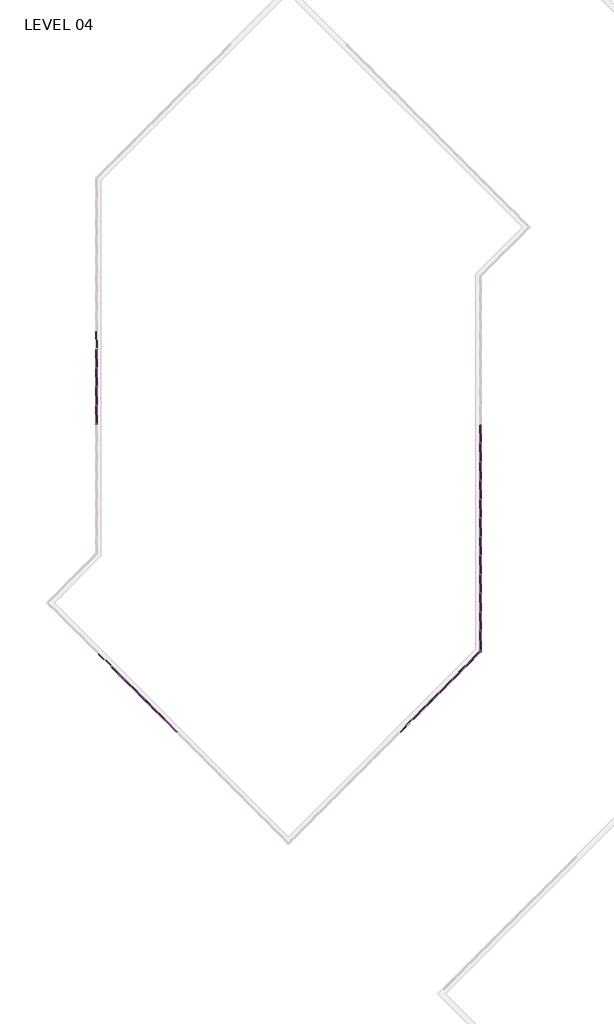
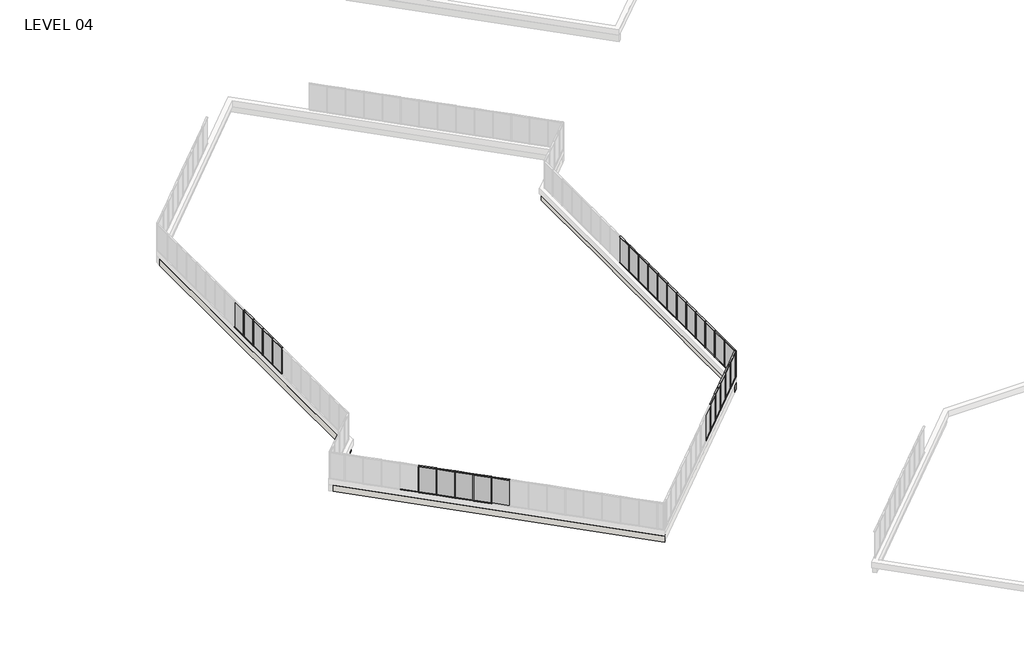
# One storey, part 4 of 17: 82 members, 28 plates, 3 walls.
"""IFC4 building model written with IfcOpenShell, lengths in millimetres."""

from ifc_helpers import new_model, si_unit, origin, place, context, project, spatial, faceted_brep, transform, mapped, element, save
from components import member_5247f267, member_e44af9ab, member_800970d4, member_c23f844a, member_1bd862b2, member_c975838b, member_ed9c17d6, plate_67294edd, plate_50b9cd61, plate_bbcbcabf, plate_db5d6751, plate_e0fd5134, plate_dca6a18a

model = new_model("IFC4")

# Units and contexts
model_context = context("Model", 3, world=origin())
ifc_project = project(units=[si_unit("LENGTHUNIT", "METRE", prefix="MILLI")], contexts=[model_context])

# Site, building, storey
site = spatial("IfcSite", under=ifc_project)
building = spatial("IfcBuilding", under=site)
storey = spatial("IfcBuildingStorey", under=building, Name="LEVEL 04", Elevation=12052.3)

# Members
placement = place(None, origin())
member_shape = member_5247f267(model_context)
element("IfcMember", 1, ObjectType="Rectangular Mullion : 2\" x 4.5\" rectangular", at=placement, inside=storey, context=model_context, shape_type="MappedRepresentation", body=[
    mapped(member_shape, transform((-32784.0347164, 58254.5675885, 14643.1), x_axis=(0.0, 0.0, 1.0), y_axis=(1.0, 0.0, 0.0), z_axis=(0.0, 1.0, 0.0))),
])
element("IfcMember", 2, ObjectType="Rectangular Mullion : 2\" x 4.5\" rectangular", at=placement, inside=storey, context=model_context, shape_type="MappedRepresentation", body=[
    mapped(member_shape, transform((-32784.0347164, 59778.5675885, 14643.1), x_axis=(0.0, 0.0, 1.0), y_axis=(1.0, 0.0, 0.0), z_axis=(0.0, 1.0, 0.0))),
])
element("IfcMember", 3, ObjectType="Rectangular Mullion : 2\" x 4.5\" rectangular", at=placement, inside=storey, context=model_context, shape_type="MappedRepresentation", body=[
    mapped(member_shape, transform((-32784.0347164, 62826.5675885, 14643.1), x_axis=(0.0, 0.0, 1.0), y_axis=(1.0, 0.0, 0.0), z_axis=(0.0, 1.0, 0.0))),
])
element("IfcMember", 4, ObjectType="Rectangular Mullion : 2\" x 4.5\" rectangular", at=placement, inside=storey, context=model_context, shape_type="MappedRepresentation", body=[
    mapped(member_shape, transform((-32784.0347164, 61302.5675885, 14643.1), x_axis=(0.0, 0.0, 1.0), y_axis=(1.0, 0.0, 0.0), z_axis=(0.0, 1.0, 0.0))),
])
element("IfcMember", 5, ObjectType="Rectangular Mullion : 2\" x 4.5\" rectangular", at=placement, inside=storey, context=model_context, shape_type="MappedRepresentation", body=[
    mapped(member_shape, transform((-1611.8847164, 49110.5675885, 14643.1), x_axis=(0.0, 0.0, 1.0), y_axis=(1.0, 0.0, 0.0), z_axis=(0.0, 1.0, 0.0))),
])
element("IfcMember", 6, ObjectType="Rectangular Mullion : 2\" x 4.5\" rectangular", at=placement, inside=storey, context=model_context, shape_type="MappedRepresentation", body=[
    mapped(member_shape, transform((-1611.8847164, 50634.5675885, 14643.1), x_axis=(0.0, 0.0, 1.0), y_axis=(1.0, 0.0, 0.0), z_axis=(0.0, 1.0, 0.0))),
])
element("IfcMember", 7, ObjectType="Rectangular Mullion : 2\" x 4.5\" rectangular", at=placement, inside=storey, context=model_context, shape_type="MappedRepresentation", body=[
    mapped(member_shape, transform((-1611.8847164, 52158.5675885, 14643.1), x_axis=(0.0, 0.0, 1.0), y_axis=(1.0, 0.0, 0.0), z_axis=(0.0, 1.0, 0.0))),
])
element("IfcMember", 8, ObjectType="Rectangular Mullion : 2\" x 4.5\" rectangular", at=placement, inside=storey, context=model_context, shape_type="MappedRepresentation", body=[
    mapped(member_shape, transform((-1611.8847164, 55206.5675885, 14643.1), x_axis=(0.0, 0.0, 1.0), y_axis=(1.0, 0.0, 0.0), z_axis=(0.0, 1.0, 0.0))),
])
element("IfcMember", 9, ObjectType="Rectangular Mullion : 2\" x 4.5\" rectangular", at=placement, inside=storey, context=model_context, shape_type="MappedRepresentation", body=[
    mapped(member_shape, transform((-1611.8847164, 56730.5675885, 14643.1), x_axis=(0.0, 0.0, 1.0), y_axis=(1.0, 0.0, 0.0), z_axis=(0.0, 1.0, 0.0))),
])
element("IfcMember", 10, ObjectType="Rectangular Mullion : 2\" x 4.5\" rectangular", at=placement, inside=storey, context=model_context, shape_type="MappedRepresentation", body=[
    mapped(member_shape, transform((-1611.8847164, 53682.5675885, 14643.1), x_axis=(0.0, 0.0, 1.0), y_axis=(1.0, 0.0, 0.0), z_axis=(0.0, 1.0, 0.0))),
])
element("IfcMember", 11, ObjectType="Rectangular Mullion : 2\" x 4.5\" rectangular", at=placement, inside=storey, context=model_context, shape_type="MappedRepresentation", body=[
    mapped(member_shape, transform((-1611.8847164, 47586.5675885, 14643.1), x_axis=(0.0, 0.0, 1.0), y_axis=(1.0, 0.0, 0.0), z_axis=(0.0, 1.0, 0.0))),
])
element("IfcMember", 12, ObjectType="Rectangular Mullion : 2\" x 4.5\" rectangular", at=placement, inside=storey, context=model_context, shape_type="MappedRepresentation", body=[
    mapped(member_shape, transform((-1611.8847164, 46062.5675885, 14643.1), x_axis=(0.0, 0.0, 1.0), y_axis=(1.0, 0.0, 0.0), z_axis=(0.0, 1.0, 0.0))),
])
element("IfcMember", 13, ObjectType="Rectangular Mullion : 2\" x 4.5\" rectangular", at=placement, inside=storey, context=model_context, shape_type="MappedRepresentation", body=[
    mapped(member_shape, transform((-1611.8847164, 44538.5675885, 14643.1), x_axis=(0.0, 0.0, 1.0), y_axis=(1.0, 0.0, 0.0), z_axis=(0.0, 1.0, 0.0))),
])
element("IfcMember", 14, ObjectType="Rectangular Mullion : 2\" x 4.5\" rectangular", at=placement, inside=storey, context=model_context, shape_type="MappedRepresentation", body=[
    mapped(member_shape, transform((-1611.8847164, 43014.5675885, 14643.1), x_axis=(0.0, 0.0, 1.0), y_axis=(1.0, 0.0, 0.0), z_axis=(0.0, 1.0, 0.0))),
])
element("IfcMember", 15, ObjectType="Rectangular Mullion : 2\" x 4.5\" rectangular", at=placement, inside=storey, context=model_context, shape_type="MappedRepresentation", body=[
    mapped(member_shape, transform((-1611.8847164, 41490.5675885, 14643.1), x_axis=(0.0, 0.0, 1.0), y_axis=(1.0, 0.0, 0.0), z_axis=(0.0, 1.0, 0.0))),
])
element("IfcMember", 16, ObjectType="Rectangular Mullion : 2\" x 4.5\" rectangular", at=placement, inside=storey, context=model_context, shape_type="MappedRepresentation", body=[
    mapped(member_shape, transform((-3866.0742688, 36048.0719005, 14643.1), x_axis=(0.0, 0.0, 1.0), y_axis=(-0.7071067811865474, 0.7071067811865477, 0.0), z_axis=(-0.7071067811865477, -0.7071067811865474, 0.0))),
])
element("IfcMember", 17, ObjectType="Rectangular Mullion : 2\" x 4.5\" rectangular", at=placement, inside=storey, context=model_context, shape_type="MappedRepresentation", body=[
    mapped(member_shape, transform((-4943.7050033, 34970.441166, 14643.1), x_axis=(0.0, 0.0, 1.0), y_axis=(-0.707106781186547, 0.707106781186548, 0.0), z_axis=(-0.707106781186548, -0.707106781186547, 0.0))),
])
element("IfcMember", 18, ObjectType="Rectangular Mullion : 2\" x 4.5\" rectangular", at=placement, inside=storey, context=model_context, shape_type="MappedRepresentation", body=[
    mapped(member_shape, transform((-6021.3357378, 33892.8104315, 14643.1), x_axis=(0.0, 0.0, 1.0), y_axis=(-0.7071067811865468, 0.7071067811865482, 0.0), z_axis=(-0.7071067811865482, -0.7071067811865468, 0.0))),
])
element("IfcMember", 19, ObjectType="Rectangular Mullion : 2\" x 4.5\" rectangular", at=placement, inside=storey, context=model_context, shape_type="MappedRepresentation", body=[
    mapped(member_shape, transform((-7098.9590715, 32815.1870978, 14643.1), x_axis=(0.0, 0.0, 1.0), y_axis=(-0.7071067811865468, 0.7071067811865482, 0.0), z_axis=(-0.7071067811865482, -0.7071067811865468, 0.0))),
])
element("IfcMember", 20, ObjectType="Rectangular Mullion : 2\" x 4.5\" rectangular", at=placement, inside=storey, context=model_context, shape_type="MappedRepresentation", body=[
    mapped(member_shape, transform((-32784.0347164, 56781.3675885, 12052.3), x_axis=(0.0, 0.0, -1.0), y_axis=(1.0, 0.0, 0.0), z_axis=(0.0, -1.0, 0.0))),
])
element("IfcMember", 21, ObjectType="Rectangular Mullion : 2\" x 4.5\" rectangular", at=placement, inside=storey, context=model_context, shape_type="MappedRepresentation", body=[
    mapped(member_shape, transform((-32784.0347164, 58305.3675885, 12052.3), x_axis=(0.0, 0.0, -1.0), y_axis=(1.0, 0.0, 0.0), z_axis=(0.0, -1.0, 0.0))),
])
element("IfcMember", 22, ObjectType="Rectangular Mullion : 2\" x 4.5\" rectangular", at=placement, inside=storey, context=model_context, shape_type="MappedRepresentation", body=[
    mapped(member_shape, transform((-32784.0347164, 59829.3675885, 12052.3), x_axis=(0.0, 0.0, -1.0), y_axis=(1.0, 0.0, 0.0), z_axis=(0.0, -1.0, 0.0))),
])
element("IfcMember", 23, ObjectType="Rectangular Mullion : 2\" x 4.5\" rectangular", at=placement, inside=storey, context=model_context, shape_type="MappedRepresentation", body=[
    mapped(member_shape, transform((-32784.0347164, 62877.3675885, 12052.3), x_axis=(0.0, 0.0, -1.0), y_axis=(1.0, 0.0, 0.0), z_axis=(0.0, -1.0, 0.0))),
])
element("IfcMember", 24, ObjectType="Rectangular Mullion : 2\" x 4.5\" rectangular", at=placement, inside=storey, context=model_context, shape_type="MappedRepresentation", body=[
    mapped(member_shape, transform((-32784.0347164, 61353.3675885, 12052.3), x_axis=(0.0, 0.0, -1.0), y_axis=(1.0, 0.0, 0.0), z_axis=(0.0, -1.0, 0.0))),
])
element("IfcMember", 25, ObjectType="Rectangular Mullion : 2\" x 4.5\" rectangular", at=placement, inside=storey, context=model_context, shape_type="MappedRepresentation", body=[
    mapped(member_shape, transform((-1611.8847164, 49161.3675885, 12052.3), x_axis=(0.0, 0.0, -1.0), y_axis=(1.0, 0.0, 0.0), z_axis=(0.0, -1.0, 0.0))),
])
element("IfcMember", 26, ObjectType="Rectangular Mullion : 2\" x 4.5\" rectangular", at=placement, inside=storey, context=model_context, shape_type="MappedRepresentation", body=[
    mapped(member_shape, transform((-1611.8847164, 50685.3675885, 12052.3), x_axis=(0.0, 0.0, -1.0), y_axis=(1.0, 0.0, 0.0), z_axis=(0.0, -1.0, 0.0))),
])
element("IfcMember", 27, ObjectType="Rectangular Mullion : 2\" x 4.5\" rectangular", at=placement, inside=storey, context=model_context, shape_type="MappedRepresentation", body=[
    mapped(member_shape, transform((-1611.8847164, 52209.3675885, 12052.3), x_axis=(0.0, 0.0, -1.0), y_axis=(1.0, 0.0, 0.0), z_axis=(0.0, -1.0, 0.0))),
])
element("IfcMember", 28, ObjectType="Rectangular Mullion : 2\" x 4.5\" rectangular", at=placement, inside=storey, context=model_context, shape_type="MappedRepresentation", body=[
    mapped(member_shape, transform((-1611.8847164, 55257.3675885, 12052.3), x_axis=(0.0, 0.0, -1.0), y_axis=(1.0, 0.0, 0.0), z_axis=(0.0, -1.0, 0.0))),
])
element("IfcMember", 29, ObjectType="Rectangular Mullion : 2\" x 4.5\" rectangular", at=placement, inside=storey, context=model_context, shape_type="MappedRepresentation", body=[
    mapped(member_shape, transform((-1611.8847164, 53733.3675885, 12052.3), x_axis=(0.0, 0.0, -1.0), y_axis=(1.0, 0.0, 0.0), z_axis=(0.0, -1.0, 0.0))),
])
element("IfcMember", 30, ObjectType="Rectangular Mullion : 2\" x 4.5\" rectangular", at=placement, inside=storey, context=model_context, shape_type="MappedRepresentation", body=[
    mapped(member_shape, transform((-1611.8847164, 47637.3675885, 12052.3), x_axis=(0.0, 0.0, -1.0), y_axis=(1.0, 0.0, 0.0), z_axis=(0.0, -1.0, 0.0))),
])
element("IfcMember", 31, ObjectType="Rectangular Mullion : 2\" x 4.5\" rectangular", at=placement, inside=storey, context=model_context, shape_type="MappedRepresentation", body=[
    mapped(member_shape, transform((-1611.8847164, 46113.3675885, 12052.3), x_axis=(0.0, 0.0, -1.0), y_axis=(1.0, 0.0, 0.0), z_axis=(0.0, -1.0, 0.0))),
])
element("IfcMember", 32, ObjectType="Rectangular Mullion : 2\" x 4.5\" rectangular", at=placement, inside=storey, context=model_context, shape_type="MappedRepresentation", body=[
    mapped(member_shape, transform((-1611.8847164, 44589.3675885, 12052.3), x_axis=(0.0, 0.0, -1.0), y_axis=(1.0, 0.0, 0.0), z_axis=(0.0, -1.0, 0.0))),
])
element("IfcMember", 33, ObjectType="Rectangular Mullion : 2\" x 4.5\" rectangular", at=placement, inside=storey, context=model_context, shape_type="MappedRepresentation", body=[
    mapped(member_shape, transform((-1611.8847164, 43065.3675885, 12052.3), x_axis=(0.0, 0.0, -1.0), y_axis=(1.0, 0.0, 0.0), z_axis=(0.0, -1.0, 0.0))),
])
element("IfcMember", 34, ObjectType="Rectangular Mullion : 2\" x 4.5\" rectangular", at=placement, inside=storey, context=model_context, shape_type="MappedRepresentation", body=[
    mapped(member_shape, transform((-1611.8847164, 41541.3675885, 12052.3), x_axis=(0.0, 0.0, -1.0), y_axis=(1.0, 0.0, 0.0), z_axis=(0.0, -1.0, 0.0))),
])
element("IfcMember", 35, ObjectType="Rectangular Mullion : 2\" x 4.5\" rectangular", at=placement, inside=storey, context=model_context, shape_type="MappedRepresentation", body=[
    mapped(member_shape, transform((-1611.8847164, 40017.3675885, 12052.3), x_axis=(0.0, 0.0, -1.0), y_axis=(1.0, 0.0, 0.0), z_axis=(0.0, -1.0, 0.0))),
])
element("IfcMember", 36, ObjectType="Rectangular Mullion : 2\" x 4.5\" rectangular", at=placement, inside=storey, context=model_context, shape_type="MappedRepresentation", body=[
    mapped(member_shape, transform((-3901.9952932, 36012.1508761, 12052.3), x_axis=(0.0, 0.0, -1.0), y_axis=(-0.7071067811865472, 0.7071067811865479, 0.0), z_axis=(0.7071067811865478, 0.7071067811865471, 0.0))),
])
element("IfcMember", 37, ObjectType="Rectangular Mullion : 2\" x 4.5\" rectangular", at=placement, inside=storey, context=model_context, shape_type="MappedRepresentation", body=[
    mapped(member_shape, transform((-4979.6260278, 34934.5201415, 12052.3), x_axis=(0.0, 0.0, -1.0), y_axis=(-0.7071067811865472, 0.7071067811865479, 0.0), z_axis=(0.7071067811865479, 0.7071067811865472, 0.0))),
])
element("IfcMember", 38, ObjectType="Rectangular Mullion : 2\" x 4.5\" rectangular", at=placement, inside=storey, context=model_context, shape_type="MappedRepresentation", body=[
    mapped(member_shape, transform((-6057.2567623, 33856.889407, 12052.3), x_axis=(0.0, 0.0, -1.0), y_axis=(-0.7071067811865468, 0.7071067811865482, 0.0), z_axis=(0.7071067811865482, 0.7071067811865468, 0.0))),
])
element("IfcMember", 39, ObjectType="Rectangular Mullion : 2\" x 4.5\" rectangular", at=placement, inside=storey, context=model_context, shape_type="MappedRepresentation", body=[
    mapped(member_shape, transform((-2824.3645587, 37089.7816106, 12052.3), x_axis=(0.0, 0.0, -1.0), y_axis=(-0.707106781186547, 0.7071067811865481, 0.0), z_axis=(0.707106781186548, 0.7071067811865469, 0.0))),
])
element("IfcMember", 40, ObjectType="Rectangular Mullion : 2\" x 4.5\" rectangular", at=placement, inside=storey, context=model_context, shape_type="MappedRepresentation", body=[
    mapped(member_shape, transform((-7134.880096, 32779.2660733, 12052.3), x_axis=(0.0, 0.0, -1.0), y_axis=(-0.7071067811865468, 0.7071067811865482, 0.0), z_axis=(0.7071067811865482, 0.7071067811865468, 0.0))),
])
element("IfcMember", 41, ObjectType="Rectangular Mullion : 2\" x 4.5\" rectangular", at=placement, inside=storey, context=model_context, shape_type="MappedRepresentation", body=[
    mapped(member_shape, transform((-31583.4219356, 37101.6486721, 12052.3), x_axis=(0.0, 0.0, -1.0), y_axis=(0.7071067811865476, 0.7071067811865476, 0.0), z_axis=(0.7071067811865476, -0.7071067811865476, 0.0))),
])
member_2_shape = member_e44af9ab(model_context)
element("IfcMember", 42, ObjectType="Rectangular Mullion : 2\" x 4.5\" rectangular", at=placement, inside=storey, context=model_context, shape_type="MappedRepresentation", body=[
    mapped(member_2_shape, transform((-32784.0347164, 56755.9675885, 12052.3), x_axis=(0.0, 1.0, 0.0), y_axis=(1.0, 0.0, 0.0), z_axis=(0.0, 0.0, -1.0))),
])
element("IfcMember", 43, ObjectType="Rectangular Mullion : 2\" x 4.5\" rectangular", at=placement, inside=storey, context=model_context, shape_type="MappedRepresentation", body=[
    mapped(member_2_shape, transform((-32784.0347164, 58279.9675885, 12052.3), x_axis=(0.0, 1.0, 0.0), y_axis=(1.0, 0.0, 0.0), z_axis=(0.0, 0.0, -1.0))),
])
element("IfcMember", 44, ObjectType="Rectangular Mullion : 2\" x 4.5\" rectangular", at=placement, inside=storey, context=model_context, shape_type="MappedRepresentation", body=[
    mapped(member_2_shape, transform((-32784.0347164, 59803.9675885, 12052.3), x_axis=(0.0, 1.0, 0.0), y_axis=(1.0, 0.0, 0.0), z_axis=(0.0, 0.0, -1.0))),
])
element("IfcMember", 45, ObjectType="Rectangular Mullion : 2\" x 4.5\" rectangular", at=placement, inside=storey, context=model_context, shape_type="MappedRepresentation", body=[
    mapped(member_2_shape, transform((-32784.0347164, 62851.9675885, 12052.3), x_axis=(0.0, 1.0, 0.0), y_axis=(1.0, 0.0, 0.0), z_axis=(0.0, 0.0, -1.0))),
])
element("IfcMember", 46, ObjectType="Rectangular Mullion : 2\" x 4.5\" rectangular", at=placement, inside=storey, context=model_context, shape_type="MappedRepresentation", body=[
    mapped(member_2_shape, transform((-32784.0347164, 61327.9675885, 12052.3), x_axis=(0.0, 1.0, 0.0), y_axis=(1.0, 0.0, 0.0), z_axis=(0.0, 0.0, -1.0))),
])
element("IfcMember", 47, ObjectType="Rectangular Mullion : 2\" x 4.5\" rectangular", at=placement, inside=storey, context=model_context, shape_type="MappedRepresentation", body=[
    mapped(member_2_shape, transform((-1611.8847164, 49135.9675885, 12052.3), x_axis=(0.0, 1.0, 0.0), y_axis=(1.0, 0.0, 0.0), z_axis=(0.0, 0.0, -1.0))),
])
element("IfcMember", 48, ObjectType="Rectangular Mullion : 2\" x 4.5\" rectangular", at=placement, inside=storey, context=model_context, shape_type="MappedRepresentation", body=[
    mapped(member_2_shape, transform((-1611.8847164, 50659.9675885, 12052.3), x_axis=(0.0, 1.0, 0.0), y_axis=(1.0, 0.0, 0.0), z_axis=(0.0, 0.0, -1.0))),
])
element("IfcMember", 49, ObjectType="Rectangular Mullion : 2\" x 4.5\" rectangular", at=placement, inside=storey, context=model_context, shape_type="MappedRepresentation", body=[
    mapped(member_2_shape, transform((-1611.8847164, 52183.9675885, 12052.3), x_axis=(0.0, 1.0, 0.0), y_axis=(1.0, 0.0, 0.0), z_axis=(0.0, 0.0, -1.0))),
])
element("IfcMember", 50, ObjectType="Rectangular Mullion : 2\" x 4.5\" rectangular", at=placement, inside=storey, context=model_context, shape_type="MappedRepresentation", body=[
    mapped(member_2_shape, transform((-1611.8847164, 55231.9675885, 12052.3), x_axis=(0.0, 1.0, 0.0), y_axis=(1.0, 0.0, 0.0), z_axis=(0.0, 0.0, -1.0))),
])
element("IfcMember", 51, ObjectType="Rectangular Mullion : 2\" x 4.5\" rectangular", at=placement, inside=storey, context=model_context, shape_type="MappedRepresentation", body=[
    mapped(member_2_shape, transform((-1611.8847164, 53707.9675885, 12052.3), x_axis=(0.0, 1.0, 0.0), y_axis=(1.0, 0.0, 0.0), z_axis=(0.0, 0.0, -1.0))),
])
element("IfcMember", 52, ObjectType="Rectangular Mullion : 2\" x 4.5\" rectangular", at=placement, inside=storey, context=model_context, shape_type="MappedRepresentation", body=[
    mapped(member_2_shape, transform((-1611.8847164, 47611.9675885, 12052.3), x_axis=(0.0, 1.0, 0.0), y_axis=(1.0, 0.0, 0.0), z_axis=(0.0, 0.0, -1.0))),
])
element("IfcMember", 53, ObjectType="Rectangular Mullion : 2\" x 4.5\" rectangular", at=placement, inside=storey, context=model_context, shape_type="MappedRepresentation", body=[
    mapped(member_2_shape, transform((-1611.8847164, 46087.9675885, 12052.3), x_axis=(0.0, 1.0, 0.0), y_axis=(1.0, 0.0, 0.0), z_axis=(0.0, 0.0, -1.0))),
])
element("IfcMember", 54, ObjectType="Rectangular Mullion : 2\" x 4.5\" rectangular", at=placement, inside=storey, context=model_context, shape_type="MappedRepresentation", body=[
    mapped(member_2_shape, transform((-1611.8847164, 44563.9675885, 12052.3), x_axis=(0.0, 1.0, 0.0), y_axis=(1.0, 0.0, 0.0), z_axis=(0.0, 0.0, -1.0))),
])
element("IfcMember", 55, ObjectType="Rectangular Mullion : 2\" x 4.5\" rectangular", at=placement, inside=storey, context=model_context, shape_type="MappedRepresentation", body=[
    mapped(member_2_shape, transform((-1611.8847164, 43039.9675885, 12052.3), x_axis=(0.0, 1.0, 0.0), y_axis=(1.0, 0.0, 0.0), z_axis=(0.0, 0.0, -1.0))),
])
element("IfcMember", 56, ObjectType="Rectangular Mullion : 2\" x 4.5\" rectangular", at=placement, inside=storey, context=model_context, shape_type="MappedRepresentation", body=[
    mapped(member_2_shape, transform((-1611.8847164, 41515.9675885, 12052.3), x_axis=(0.0, 1.0, 0.0), y_axis=(1.0, 0.0, 0.0), z_axis=(0.0, 0.0, -1.0))),
])
element("IfcMember", 57, ObjectType="Rectangular Mullion : 2\" x 4.5\" rectangular", at=placement, inside=storey, context=model_context, shape_type="MappedRepresentation", body=[
    mapped(member_2_shape, transform((-1611.8847164, 39991.9675885, 12052.3), x_axis=(0.0, 1.0, 0.0), y_axis=(1.0, 0.0, 0.0), z_axis=(0.0, 0.0, -1.0))),
])
element("IfcMember", 58, ObjectType="Rectangular Mullion : 2\" x 4.5\" rectangular", at=placement, inside=storey, context=model_context, shape_type="MappedRepresentation", body=[
    mapped(member_2_shape, transform((-3884.034781, 36030.1113883, 12052.3), x_axis=(-0.7071067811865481, -0.7071067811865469, 0.0), y_axis=(-0.7071067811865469, 0.7071067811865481, 0.0), z_axis=(0.0, 0.0, -1.0))),
])
element("IfcMember", 59, ObjectType="Rectangular Mullion : 2\" x 4.5\" rectangular", at=placement, inside=storey, context=model_context, shape_type="MappedRepresentation", body=[
    mapped(member_2_shape, transform((-4961.6655155, 34952.4806538, 12052.3), x_axis=(-0.7071067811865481, -0.7071067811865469, 0.0), y_axis=(-0.7071067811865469, 0.7071067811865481, 0.0), z_axis=(0.0, 0.0, -1.0))),
])
element("IfcMember", 60, ObjectType="Rectangular Mullion : 2\" x 4.5\" rectangular", at=placement, inside=storey, context=model_context, shape_type="MappedRepresentation", body=[
    mapped(member_2_shape, transform((-6039.2962501, 33874.8499192, 12052.3), x_axis=(-0.7071067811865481, -0.7071067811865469, 0.0), y_axis=(-0.7071067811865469, 0.7071067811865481, 0.0), z_axis=(0.0, 0.0, -1.0))),
])
element("IfcMember", 61, ObjectType="Rectangular Mullion : 2\" x 4.5\" rectangular", at=placement, inside=storey, context=model_context, shape_type="MappedRepresentation", body=[
    mapped(member_2_shape, transform((-2806.4040465, 37107.7421228, 12052.3), x_axis=(-0.7071067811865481, -0.7071067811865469, 0.0), y_axis=(-0.7071067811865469, 0.7071067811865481, 0.0), z_axis=(0.0, 0.0, -1.0))),
])
element("IfcMember", 62, ObjectType="Rectangular Mullion : 2\" x 4.5\" rectangular", at=placement, inside=storey, context=model_context, shape_type="MappedRepresentation", body=[
    mapped(member_2_shape, transform((-7116.9195837, 32797.2265856, 12052.3), x_axis=(-0.7071067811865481, -0.7071067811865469, 0.0), y_axis=(-0.7071067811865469, 0.7071067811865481, 0.0), z_axis=(0.0, 0.0, -1.0))),
])
element("IfcMember", 63, ObjectType="Rectangular Mullion : 2\" x 4.5\" rectangular", at=placement, inside=storey, context=model_context, shape_type="MappedRepresentation", body=[
    mapped(member_2_shape, transform((-28350.531194, 33868.7579305, 12052.3), x_axis=(-0.7071067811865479, 0.7071067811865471, 0.0), y_axis=(0.7071067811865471, 0.7071067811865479, 0.0), z_axis=(0.0, 0.0, -1.0))),
])
element("IfcMember", 64, ObjectType="Rectangular Mullion : 2\" x 4.5\" rectangular", at=placement, inside=storey, context=model_context, shape_type="MappedRepresentation", body=[
    mapped(member_2_shape, transform((-29422.1746038, 34940.4013403, 12052.3), x_axis=(-0.7071067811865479, 0.7071067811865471, 0.0), y_axis=(0.7071067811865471, 0.7071067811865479, 0.0), z_axis=(0.0, 0.0, -1.0))),
])
element("IfcMember", 65, ObjectType="Rectangular Mullion : 2\" x 4.5\" rectangular", at=placement, inside=storey, context=model_context, shape_type="MappedRepresentation", body=[
    mapped(member_2_shape, transform((-30493.8180136, 36012.0447501, 12052.3), x_axis=(-0.7071067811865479, 0.7071067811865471, 0.0), y_axis=(0.7071067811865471, 0.7071067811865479, 0.0), z_axis=(0.0, 0.0, -1.0))),
])
element("IfcMember", 66, ObjectType="Rectangular Mullion : 2\" x 4.5\" rectangular", at=placement, inside=storey, context=model_context, shape_type="MappedRepresentation", body=[
    mapped(member_2_shape, transform((-31565.4614234, 37083.6881599, 12052.3), x_axis=(-0.7071067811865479, 0.7071067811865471, 0.0), y_axis=(0.7071067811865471, 0.7071067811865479, 0.0), z_axis=(0.0, 0.0, -1.0))),
])
element("IfcMember", 67, ObjectType="Rectangular Mullion : 2\" x 4.5\" rectangular", at=placement, inside=storey, context=model_context, shape_type="MappedRepresentation", body=[
    mapped(member_2_shape, transform((-27275.9119891, 32794.1387256, 12052.3), x_axis=(-0.7071067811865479, 0.7071067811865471, 0.0), y_axis=(0.7071067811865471, 0.7071067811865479, 0.0), z_axis=(0.0, 0.0, -1.0))),
])
member_3_shape = member_800970d4(model_context)
element("IfcMember", 68, ObjectType="Rectangular Mullion : 2\" x 4.5\" rectangular", at=placement, inside=storey, context=model_context, shape_type="MappedRepresentation", body=[
    mapped(member_3_shape, transform((-1611.8847164, 38302.2614529, 14643.1), x_axis=(0.0, -1.0, 0.0), y_axis=(1.0, 0.0, 0.0), z_axis=(0.0, 0.0, 1.0))),
])
element("IfcMember", 69, ObjectType="Rectangular Mullion : 2\" x 4.5\" rectangular", at=placement, inside=storey, context=model_context, shape_type="MappedRepresentation", body=[
    mapped(member_3_shape, transform((-1611.8847164, 38302.2614529, 14643.1), x_axis=(0.7071067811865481, 0.7071067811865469, 0.0), y_axis=(-0.7071067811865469, 0.7071067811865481, 0.0), z_axis=(0.0, 0.0, 1.0))),
])
member_4_shape = member_c23f844a(model_context)
element("IfcMember", 70, ObjectType="Rectangular Mullion : 2\" x 4.5\" rectangular", at=placement, inside=storey, context=model_context, shape_type="MappedRepresentation", body=[
    mapped(member_4_shape, transform((-29404.2140916, 34922.4408281, 14643.1), x_axis=(0.0, 0.0, 1.0), y_axis=(0.7071067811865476, 0.7071067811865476, 0.0), z_axis=(-0.7071067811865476, 0.7071067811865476, 0.0))),
])
element("IfcMember", 71, ObjectType="Rectangular Mullion : 2\" x 4.5\" rectangular", at=placement, inside=storey, context=model_context, shape_type="MappedRepresentation", body=[
    mapped(member_4_shape, transform((-30475.8575014, 35994.0842378, 14643.1), x_axis=(0.0, 0.0, 1.0), y_axis=(0.7071067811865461, 0.707106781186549, 0.0), z_axis=(-0.707106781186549, 0.7071067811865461, 0.0))),
])
element("IfcMember", 72, ObjectType="Rectangular Mullion : 2\" x 4.5\" rectangular", at=placement, inside=storey, context=model_context, shape_type="MappedRepresentation", body=[
    mapped(member_4_shape, transform((-31547.5009111, 37065.7276476, 14643.1), x_axis=(0.0, 0.0, 1.0), y_axis=(0.7071067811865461, 0.707106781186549, 0.0), z_axis=(-0.7071067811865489, 0.707106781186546, 0.0))),
])
element("IfcMember", 73, ObjectType="Rectangular Mullion : 2\" x 4.5\" rectangular", at=placement, inside=storey, context=model_context, shape_type="MappedRepresentation", body=[
    mapped(member_4_shape, transform((-28368.4917063, 33886.7184427, 12052.3), x_axis=(0.0, 0.0, -1.0), y_axis=(0.7071067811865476, 0.7071067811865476, 0.0), z_axis=(0.7071067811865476, -0.7071067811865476, 0.0))),
])
element("IfcMember", 74, ObjectType="Rectangular Mullion : 2\" x 4.5\" rectangular", at=placement, inside=storey, context=model_context, shape_type="MappedRepresentation", body=[
    mapped(member_4_shape, transform((-29440.135116, 34958.3618525, 12052.3), x_axis=(0.0, 0.0, -1.0), y_axis=(0.7071067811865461, 0.707106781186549, 0.0), z_axis=(0.707106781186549, -0.7071067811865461, 0.0))),
])
element("IfcMember", 75, ObjectType="Rectangular Mullion : 2\" x 4.5\" rectangular", at=placement, inside=storey, context=model_context, shape_type="MappedRepresentation", body=[
    mapped(member_4_shape, transform((-30511.7785258, 36030.0052623, 12052.3), x_axis=(0.0, 0.0, -1.0), y_axis=(0.7071067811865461, 0.707106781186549, 0.0), z_axis=(0.7071067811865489, -0.707106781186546, 0.0))),
])
member_5_shape = member_1bd862b2(model_context)
element("IfcMember", 76, ObjectType="Rectangular Mullion : 2\" x 4.5\" rectangular", at=placement, inside=storey, context=model_context, shape_type="MappedRepresentation", body=[
    mapped(member_5_shape, transform((-1611.8847164, 38353.0614529, 12052.3), x_axis=(0.0, 0.0, -1.0), y_axis=(1.0, 0.0, 0.0), z_axis=(0.0, -1.0, 0.0))),
])
element("IfcMember", 77, ObjectType="Rectangular Mullion : 2\" x 4.5\" rectangular", at=placement, inside=storey, context=model_context, shape_type="MappedRepresentation", body=[
    mapped(member_5_shape, transform((-1611.8847164, 39966.5675885, 14643.1), x_axis=(0.0, 0.0, 1.0), y_axis=(1.0, 0.0, 0.0), z_axis=(0.0, 1.0, 0.0))),
])
member_6_shape = member_c975838b(model_context)
element("IfcMember", 78, ObjectType="Rectangular Mullion : 2\" x 4.5\" rectangular", at=placement, inside=storey, context=model_context, shape_type="MappedRepresentation", body=[
    mapped(member_6_shape, transform((-1647.8057409, 38266.3404284, 12052.3), x_axis=(0.0, 0.0, -1.0), y_axis=(-0.7071067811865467, 0.7071067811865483, 0.0), z_axis=(0.7071067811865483, 0.7071067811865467, 0.0))),
])
element("IfcMember", 79, ObjectType="Rectangular Mullion : 2\" x 4.5\" rectangular", at=placement, inside=storey, context=model_context, shape_type="MappedRepresentation", body=[
    mapped(member_6_shape, transform((-2788.4435342, 37125.7026351, 14643.1), x_axis=(0.0, 0.0, 1.0), y_axis=(-0.7071067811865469, 0.7071067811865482, 0.0), z_axis=(-0.7071067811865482, -0.7071067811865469, 0.0))),
])
member_7_shape = member_ed9c17d6(model_context)
element("IfcMember", 80, ObjectType="Rectangular Mullion : 2\" x 4.5\" rectangular", at=placement, inside=storey, context=model_context, shape_type="MappedRepresentation", body=[
    mapped(member_7_shape, transform((-28332.5706818, 33850.7974183, 14643.1), x_axis=(0.0, 0.0, 1.0), y_axis=(0.7071067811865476, 0.7071067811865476, 0.0), z_axis=(-0.7071067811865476, 0.7071067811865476, 0.0))),
])
element("IfcMember", 81, ObjectType="Rectangular Mullion : 2\" x 4.5\" rectangular", at=placement, inside=storey, context=model_context, shape_type="MappedRepresentation", body=[
    mapped(member_7_shape, transform((-27257.9514769, 32776.1782134, 14643.1), x_axis=(0.0, 0.0, 1.0), y_axis=(0.7071067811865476, 0.7071067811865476, 0.0), z_axis=(-0.7071067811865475, 0.7071067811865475, 0.0))),
])
element("IfcMember", 82, ObjectType="Rectangular Mullion : 2\" x 4.5\" rectangular", at=placement, inside=storey, context=model_context, shape_type="MappedRepresentation", body=[
    mapped(member_7_shape, transform((-27293.8725014, 32812.0992378, 12052.3), x_axis=(0.0, 0.0, -1.0), y_axis=(0.7071067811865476, 0.7071067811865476, 0.0), z_axis=(0.7071067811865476, -0.7071067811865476, 0.0))),
])

# Plates
plate_shape = plate_67294edd(model_context)
element("IfcPlate", 83, ObjectType="System Panel : 1/4\" Glass", at=placement, inside=storey, context=model_context, shape_type="MappedRepresentation", body=[
    mapped(plate_shape, transform((-32784.0347164, 57517.9675885, 12103.1), x_axis=(0.0, 1.0, 0.0), y_axis=(-1.0, 0.0, 0.0), z_axis=(0.0, 0.0, 1.0))),
])
element("IfcPlate", 84, ObjectType="System Panel : 1/4\" Glass", at=placement, inside=storey, context=model_context, shape_type="MappedRepresentation", body=[
    mapped(plate_shape, transform((-32784.0347164, 59041.9675885, 12103.1), x_axis=(0.0, 1.0, 0.0), y_axis=(-1.0, 0.0, 0.0), z_axis=(0.0, 0.0, 1.0))),
])
element("IfcPlate", 85, ObjectType="System Panel : 1/4\" Glass", at=placement, inside=storey, context=model_context, shape_type="MappedRepresentation", body=[
    mapped(plate_shape, transform((-32784.0347164, 60565.9675885, 12103.1), x_axis=(0.0, 1.0, 0.0), y_axis=(-1.0, 0.0, 0.0), z_axis=(0.0, 0.0, 1.0))),
])
element("IfcPlate", 86, ObjectType="System Panel : 1/4\" Glass", at=placement, inside=storey, context=model_context, shape_type="MappedRepresentation", body=[
    mapped(plate_shape, transform((-32784.0347164, 63613.9675885, 12103.1), x_axis=(0.0, 1.0, 0.0), y_axis=(-1.0, 0.0, 0.0), z_axis=(0.0, 0.0, 1.0))),
])
element("IfcPlate", 87, ObjectType="System Panel : 1/4\" Glass", at=placement, inside=storey, context=model_context, shape_type="MappedRepresentation", body=[
    mapped(plate_shape, transform((-32784.0347164, 62089.9675885, 12103.1), x_axis=(0.0, 1.0, 0.0), y_axis=(-1.0, 0.0, 0.0), z_axis=(0.0, 0.0, 1.0))),
])
element("IfcPlate", 88, ObjectType="System Panel : 1/4\" Glass", at=placement, inside=storey, context=model_context, shape_type="MappedRepresentation", body=[
    mapped(plate_shape, transform((-1611.8847164, 49897.9675885, 12103.1), x_axis=(0.0, 1.0, 0.0), y_axis=(-1.0, 0.0, 0.0), z_axis=(0.0, 0.0, 1.0))),
])
element("IfcPlate", 89, ObjectType="System Panel : 1/4\" Glass", at=placement, inside=storey, context=model_context, shape_type="MappedRepresentation", body=[
    mapped(plate_shape, transform((-1611.8847164, 51421.9675885, 12103.1), x_axis=(0.0, 1.0, 0.0), y_axis=(-1.0, 0.0, 0.0), z_axis=(0.0, 0.0, 1.0))),
])
element("IfcPlate", 90, ObjectType="System Panel : 1/4\" Glass", at=placement, inside=storey, context=model_context, shape_type="MappedRepresentation", body=[
    mapped(plate_shape, transform((-1611.8847164, 52945.9675885, 12103.1), x_axis=(0.0, 1.0, 0.0), y_axis=(-1.0, 0.0, 0.0), z_axis=(0.0, 0.0, 1.0))),
])
element("IfcPlate", 91, ObjectType="System Panel : 1/4\" Glass", at=placement, inside=storey, context=model_context, shape_type="MappedRepresentation", body=[
    mapped(plate_shape, transform((-1611.8847164, 55993.9675885, 12103.1), x_axis=(0.0, 1.0, 0.0), y_axis=(-1.0, 0.0, 0.0), z_axis=(0.0, 0.0, 1.0))),
])
element("IfcPlate", 92, ObjectType="System Panel : 1/4\" Glass", at=placement, inside=storey, context=model_context, shape_type="MappedRepresentation", body=[
    mapped(plate_shape, transform((-1611.8847164, 54469.9675885, 12103.1), x_axis=(0.0, 1.0, 0.0), y_axis=(-1.0, 0.0, 0.0), z_axis=(0.0, 0.0, 1.0))),
])
element("IfcPlate", 93, ObjectType="System Panel : 1/4\" Glass", at=placement, inside=storey, context=model_context, shape_type="MappedRepresentation", body=[
    mapped(plate_shape, transform((-1611.8847164, 48373.9675885, 12103.1), x_axis=(0.0, 1.0, 0.0), y_axis=(-1.0, 0.0, 0.0), z_axis=(0.0, 0.0, 1.0))),
])
element("IfcPlate", 94, ObjectType="System Panel : 1/4\" Glass", at=placement, inside=storey, context=model_context, shape_type="MappedRepresentation", body=[
    mapped(plate_shape, transform((-1611.8847164, 46849.9675885, 12103.1), x_axis=(0.0, 1.0, 0.0), y_axis=(-1.0, 0.0, 0.0), z_axis=(0.0, 0.0, 1.0))),
])
element("IfcPlate", 95, ObjectType="System Panel : 1/4\" Glass", at=placement, inside=storey, context=model_context, shape_type="MappedRepresentation", body=[
    mapped(plate_shape, transform((-1611.8847164, 45325.9675885, 12103.1), x_axis=(0.0, 1.0, 0.0), y_axis=(-1.0, 0.0, 0.0), z_axis=(0.0, 0.0, 1.0))),
])
element("IfcPlate", 96, ObjectType="System Panel : 1/4\" Glass", at=placement, inside=storey, context=model_context, shape_type="MappedRepresentation", body=[
    mapped(plate_shape, transform((-1611.8847164, 43801.9675885, 12103.1), x_axis=(0.0, 1.0, 0.0), y_axis=(-1.0, 0.0, 0.0), z_axis=(0.0, 0.0, 1.0))),
])
element("IfcPlate", 97, ObjectType="System Panel : 1/4\" Glass", at=placement, inside=storey, context=model_context, shape_type="MappedRepresentation", body=[
    mapped(plate_shape, transform((-1611.8847164, 42277.9675885, 12103.1), x_axis=(0.0, 1.0, 0.0), y_axis=(-1.0, 0.0, 0.0), z_axis=(0.0, 0.0, 1.0))),
])
element("IfcPlate", 98, ObjectType="System Panel : 1/4\" Glass", at=placement, inside=storey, context=model_context, shape_type="MappedRepresentation", body=[
    mapped(plate_shape, transform((-1611.8847164, 40753.9675885, 12103.1), x_axis=(0.0, 1.0, 0.0), y_axis=(-1.0, 0.0, 0.0), z_axis=(0.0, 0.0, 1.0))),
])
element("IfcPlate", 99, ObjectType="System Panel : 1/4\" Glass", at=placement, inside=storey, context=model_context, shape_type="MappedRepresentation", body=[
    mapped(plate_shape, transform((-4422.8501483, 35491.296021, 12103.1), x_axis=(-0.7071067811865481, -0.7071067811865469, 0.0), y_axis=(0.7071067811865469, -0.7071067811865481, 0.0), z_axis=(0.0, 0.0, 1.0))),
])
element("IfcPlate", 100, ObjectType="System Panel : 1/4\" Glass", at=placement, inside=storey, context=model_context, shape_type="MappedRepresentation", body=[
    mapped(plate_shape, transform((-5500.4808828, 34413.6652865, 12103.1), x_axis=(-0.7071067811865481, -0.7071067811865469, 0.0), y_axis=(0.7071067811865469, -0.7071067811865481, 0.0), z_axis=(0.0, 0.0, 1.0))),
])
element("IfcPlate", 101, ObjectType="System Panel : 1/4\" Glass", at=placement, inside=storey, context=model_context, shape_type="MappedRepresentation", body=[
    mapped(plate_shape, transform((-3345.2194137, 36568.9267556, 12103.1), x_axis=(-0.7071067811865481, -0.7071067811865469, 0.0), y_axis=(0.7071067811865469, -0.7071067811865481, 0.0), z_axis=(0.0, 0.0, 1.0))),
])
plate_2_shape = plate_50b9cd61(model_context)
element("IfcPlate", 102, ObjectType="System Panel : 1/4\" Glass", at=placement, inside=storey, context=model_context, shape_type="MappedRepresentation", body=[
    mapped(plate_2_shape, transform((-28886.3528989, 34404.5796354, 12103.1), x_axis=(-0.7071067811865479, 0.7071067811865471, 0.0), y_axis=(-0.7071067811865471, -0.7071067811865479, 0.0), z_axis=(0.0, 0.0, 1.0))),
])
element("IfcPlate", 103, ObjectType="System Panel : 1/4\" Glass", at=placement, inside=storey, context=model_context, shape_type="MappedRepresentation", body=[
    mapped(plate_2_shape, transform((-29957.9963087, 35476.2230452, 12103.1), x_axis=(-0.7071067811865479, 0.7071067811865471, 0.0), y_axis=(-0.7071067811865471, -0.7071067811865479, 0.0), z_axis=(0.0, 0.0, 1.0))),
])
element("IfcPlate", 104, ObjectType="System Panel : 1/4\" Glass", at=placement, inside=storey, context=model_context, shape_type="MappedRepresentation", body=[
    mapped(plate_2_shape, transform((-31029.6397185, 36547.866455, 12103.1), x_axis=(-0.7071067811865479, 0.7071067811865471, 0.0), y_axis=(-0.7071067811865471, -0.7071067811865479, 0.0), z_axis=(0.0, 0.0, 1.0))),
])
plate_3_shape = plate_bbcbcabf(model_context)
element("IfcPlate", 105, ObjectType="System Panel : 1/4\" Glass", at=placement, inside=storey, context=model_context, shape_type="MappedRepresentation", body=[
    mapped(plate_3_shape, transform((-1611.8847164, 39159.8145207, 12103.1), x_axis=(0.0, 1.0, 0.0), y_axis=(-1.0, 0.0, 0.0), z_axis=(0.0, 0.0, 1.0))),
])
plate_4_shape = plate_db5d6751(model_context)
element("IfcPlate", 106, ObjectType="System Panel : 1/4\" Glass", at=placement, inside=storey, context=model_context, shape_type="MappedRepresentation", body=[
    mapped(plate_4_shape, transform((-2218.1246376, 37696.0215317, 12103.1), x_axis=(-0.7071067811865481, -0.7071067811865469, 0.0), y_axis=(0.7071067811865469, -0.7071067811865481, 0.0), z_axis=(0.0, 0.0, 1.0))),
])
plate_5_shape = plate_e0fd5134(model_context)
element("IfcPlate", 107, ObjectType="System Panel : 1/4\" Glass", at=placement, inside=storey, context=model_context, shape_type="MappedRepresentation", body=[
    mapped(plate_5_shape, transform((-6578.1079169, 33336.0382524, 12103.1), x_axis=(-0.7071067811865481, -0.7071067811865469, 0.0), y_axis=(0.7071067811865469, -0.7071067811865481, 0.0), z_axis=(0.0, 0.0, 1.0))),
])
element("IfcPlate", 108, ObjectType="System Panel : 1/4\" Glass", at=placement, inside=storey, context=model_context, shape_type="MappedRepresentation", body=[
    mapped(plate_5_shape, transform((-7655.7312505, 32258.4149187, 12103.1), x_axis=(-0.7071067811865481, -0.7071067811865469, 0.0), y_axis=(0.7071067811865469, -0.7071067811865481, 0.0), z_axis=(0.0, 0.0, 1.0))),
])
plate_6_shape = plate_dca6a18a(model_context)
element("IfcPlate", 109, ObjectType="System Panel : 1/4\" Glass", at=placement, inside=storey, context=model_context, shape_type="MappedRepresentation", body=[
    mapped(plate_6_shape, transform((-26738.6023867, 32256.8291232, 12103.1), x_axis=(-0.7071067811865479, 0.7071067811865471, 0.0), y_axis=(-0.7071067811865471, -0.7071067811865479, 0.0), z_axis=(0.0, 0.0, 1.0))),
])
element("IfcPlate", 110, ObjectType="System Panel : 1/4\" Glass", at=placement, inside=storey, context=model_context, shape_type="MappedRepresentation", body=[
    mapped(plate_6_shape, transform((-27813.2215916, 33331.4483281, 12103.1), x_axis=(-0.7071067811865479, 0.7071067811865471, 0.0), y_axis=(-0.7071067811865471, -0.7071067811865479, 0.0), z_axis=(0.0, 0.0, 1.0))),
])

# Walls
element("IfcWall", 111, ObjectType="01-CONCRETE-12", at=placement, inside=storey, context=model_context, shape_type="Brep", body=[
    faceted_brep([(-1554.7347164, 38278.5891478, 10871.2), (-1554.7347164, 68758.5891478, 10871.2), (-1554.7347164, 69189.6414416, 10871.2), (-1554.7347164, 69189.6414416, 11493.5), (-1554.7347164, 68758.5891478, 11493.5), (-1554.7347164, 38278.5891478, 11493.5), (-1859.5347164, 37973.7891478, 10871.2), (-1859.5347164, 37973.7891478, 11493.5), (-1859.5347164, 38404.8414416, 11493.5), (-1859.5347164, 38687.1039803, 11493.5), (-1859.5347164, 45783.1675885, 11493.5), (-1859.5347164, 46392.7675885, 11493.5), (-1859.5347164, 53403.1675885, 11493.5), (-1859.5347164, 54012.7675885, 11493.5), (-1859.5347164, 61023.1675885, 11493.5), (-1859.5347164, 61632.7675885, 11493.5), (-1859.5347164, 68643.1675885, 11493.5), (-1859.5347164, 68884.8414416, 11493.5), (-1859.5347164, 68884.8414416, 10871.2), (-1859.5347164, 68643.1675885, 10871.2), (-1859.5347164, 61632.7675885, 10871.2), (-1859.5347164, 61023.1675885, 10871.2), (-1859.5347164, 54012.7675885, 10871.2), (-1859.5347164, 53403.1675885, 10871.2), (-1859.5347164, 46392.7675885, 10871.2), (-1859.5347164, 45783.1675885, 10871.2), (-1859.5347164, 38687.1039803, 10871.2), (-1859.5347164, 38404.8414416, 10871.2), (-1808.7347164, 68935.6414416, 10871.2), (-1808.7347164, 68935.6414416, 11493.5)], [[[0, 1, 2, 3, 4, 5]], [[6, 7, 8, 9, 10, 11, 12, 13, 14, 15, 16, 17, 18, 19, 20, 21, 22, 23, 24, 25, 26, 27]], [[2, 1, 0, 6, 27, 26, 25, 24, 23, 22, 21, 20, 19, 18, 28]], [[5, 4, 3, 29, 17, 16, 15, 14, 13, 12, 11, 10, 9, 8, 7]], [[3, 2, 28, 18, 17, 29]], [[0, 5, 7, 6]]]),
])
element("IfcWall", 112, ObjectType="01-CONCRETE-12", at=placement, inside=storey, context=model_context, shape_type="Brep", body=[
    faceted_brep([(-32841.1847164, 76326.2937354, 10871.2), (-32841.1847164, 46277.3460292, 10871.2), (-32841.1847164, 45846.2937354, 10871.2), (-32841.1847164, 45846.2937354, 11493.5), (-32841.1847164, 46277.3460292, 11493.5), (-32841.1847164, 76326.2937354, 11493.5), (-32536.3847164, 76631.0937354, 10871.2), (-32536.3847164, 76631.0937354, 11493.5), (-32536.3847164, 46151.0937354, 11493.5), (-32536.3847164, 46151.0937354, 10871.2)], [[[0, 1, 2, 3, 4, 5]], [[6, 7, 8, 9]], [[2, 1, 0, 6, 9]], [[5, 4, 3, 8, 7]], [[0, 5, 7, 6]], [[3, 2, 9, 8]]]),
])
element("IfcWall", 113, ObjectType="01-CONCRETE-12", at=placement, inside=storey, context=model_context, shape_type="Brep", body=[
    faceted_brep([(-36625.0370102, 42062.4414416, 10871.2), (-17197.9597164, 22635.3641478, 10871.2), (-17197.9597164, 22635.3641478, 11493.5), (-36625.0370102, 42062.4414416, 11493.5), (-36409.5108633, 42277.9675885, 10871.2), (-36409.5108633, 42277.9675885, 11493.5), (-17197.9597164, 23066.4164416, 11493.5), (-16982.4335695, 22850.8902947, 11493.5), (-16982.4335695, 22850.8902947, 10871.2), (-17197.9597164, 23066.4164416, 10871.2)], [[[0, 1, 2, 3]], [[4, 5, 6, 7, 8, 9]], [[1, 0, 4, 9, 8]], [[3, 2, 7, 6, 5]], [[0, 3, 5, 4]], [[2, 1, 8, 7]]]),
])

save(model, "model.ifc")
